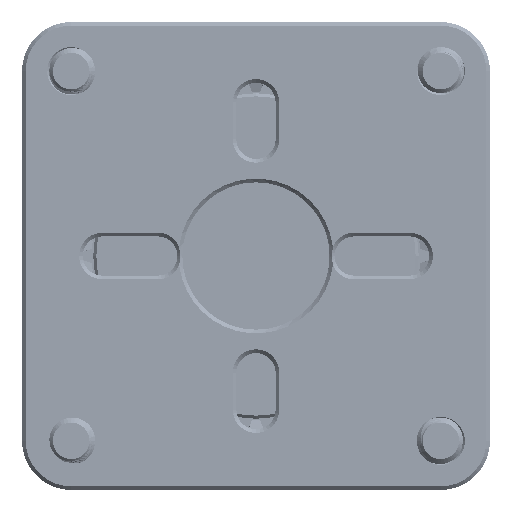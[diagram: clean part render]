
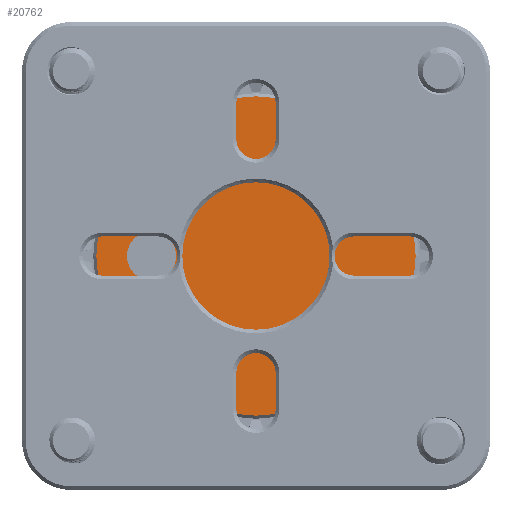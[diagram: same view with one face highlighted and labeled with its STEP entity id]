
A CAD part, left-side view. The second image highlights one B-rep face of the part: STEP entity #20762.
In plain terms, the highlighted planar face has unit normal (-1, 0, 0) as drawn and (0, 0, -1) by its records, which use the part's own axes.
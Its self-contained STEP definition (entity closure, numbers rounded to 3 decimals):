
#464=FACE_BOUND('',#3509,.T.);
#465=FACE_BOUND('',#3510,.T.);
#466=FACE_BOUND('',#3511,.T.);
#1127=PLANE('',#23250);
#2267=FACE_OUTER_BOUND('',#3508,.T.);
#3508=EDGE_LOOP('',(#19198));
#3509=EDGE_LOOP('',(#19199));
#3510=EDGE_LOOP('',(#19200));
#3511=EDGE_LOOP('',(#19201));
#7665=CIRCLE('',#23227,2.);
#7667=CIRCLE('',#23231,2.);
#7669=CIRCLE('',#23235,2.);
#7680=CIRCLE('',#23251,13.);
#10025=VERTEX_POINT('',#58686);
#10027=VERTEX_POINT('',#58693);
#10029=VERTEX_POINT('',#58700);
#10046=VERTEX_POINT('',#58741);
#13080=EDGE_CURVE('',#10025,#10025,#7665,.T.);
#13083=EDGE_CURVE('',#10027,#10027,#7667,.T.);
#13086=EDGE_CURVE('',#10029,#10029,#7669,.T.);
#13104=EDGE_CURVE('',#10046,#10046,#7680,.T.);
#19198=ORIENTED_EDGE('',*,*,#13104,.F.);
#19199=ORIENTED_EDGE('',*,*,#13080,.T.);
#19200=ORIENTED_EDGE('',*,*,#13083,.T.);
#19201=ORIENTED_EDGE('',*,*,#13086,.T.);
#20762=ADVANCED_FACE('',(#2267,#464,#465,#466),#1127,.F.);
#23227=AXIS2_PLACEMENT_3D('',#58688,#29302,#29303);
#23231=AXIS2_PLACEMENT_3D('',#58695,#29311,#29312);
#23235=AXIS2_PLACEMENT_3D('',#58702,#29320,#29321);
#23250=AXIS2_PLACEMENT_3D('',#58740,#29357,#29358);
#23251=AXIS2_PLACEMENT_3D('',#58742,#29359,#29360);
#29302=DIRECTION('center_axis',(0.,0.,1.));
#29303=DIRECTION('ref_axis',(-1.,0.,0.));
#29311=DIRECTION('center_axis',(0.,0.,1.));
#29312=DIRECTION('ref_axis',(-1.,0.,0.));
#29320=DIRECTION('center_axis',(0.,0.,1.));
#29321=DIRECTION('ref_axis',(-1.,0.,0.));
#29357=DIRECTION('center_axis',(0.,0.,1.));
#29358=DIRECTION('ref_axis',(1.,0.,0.));
#29359=DIRECTION('center_axis',(0.,0.,1.));
#29360=DIRECTION('ref_axis',(1.,0.,0.));
#58686=CARTESIAN_POINT('',(9.361,-4.25,0.));
#58688=CARTESIAN_POINT('Origin',(7.361,-4.25,0.));
#58693=CARTESIAN_POINT('',(-5.361,-4.25,0.));
#58695=CARTESIAN_POINT('Origin',(-7.361,-4.25,0.));
#58700=CARTESIAN_POINT('',(2.,8.5,0.));
#58702=CARTESIAN_POINT('Origin',(0.,8.5,0.));
#58740=CARTESIAN_POINT('Origin',(0.,0.,0.));
#58741=CARTESIAN_POINT('',(13.,0.,0.));
#58742=CARTESIAN_POINT('Origin',(0.,0.,0.));
